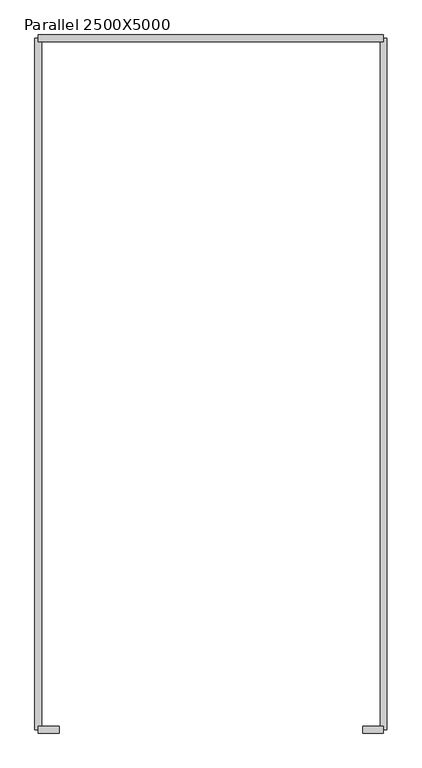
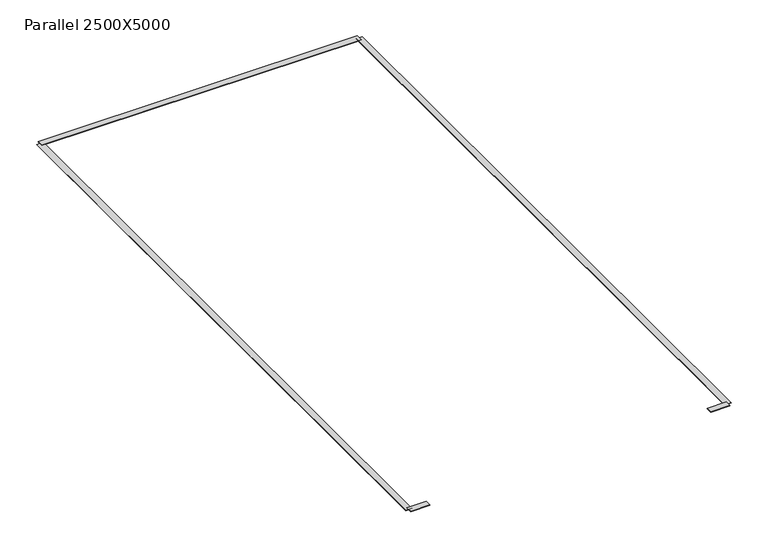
"""IFC4 building model written with IfcOpenShell, lengths in millimetres: proxy geometry, Car_Park_Space-Perpendicular : Parallel 2500X5000."""

from ifc_helpers import new_model, si_unit, origin, origin_with_axes, place, context, project, spatial, polyline, outline, extrude, source, transform, mapped, element, save


def parallel_2500x5000_aad23695(model_context):
    return source(origin(), model_context, "Body", "SweptSolid", [
        extrude(outline(polyline([(150.0, -4975.0), (150.0, -5025.0), (0.0, -5025.0), (0.0, -4975.0), (150.0, -4975.0)])), origin_with_axes(), (0.0, 0.0, 1.0), 3.175),
        extrude(outline(polyline([(2500.0, -4975.0), (2500.0, -5025.0), (2350.0, -5025.0), (2350.0, -4975.0), (2500.0, -4975.0)])), origin_with_axes(), (0.0, 0.0, 1.0), 3.175),
        extrude(outline(polyline([(2500.0, 25.0), (2500.0, -25.0), (0.0, -25.0), (0.0, 25.0), (2500.0, 25.0)])), origin_with_axes(), (0.0, 0.0, 1.0), 3.175),
        extrude(outline(polyline([(2475.0, 0.0), (2525.0, 0.0), (2525.0, -5000.0), (2475.0, -5000.0), (2475.0, 0.0)])), origin_with_axes(), (0.0, 0.0, 1.0), 3.175),
        extrude(outline(polyline([(-25.0, 0.0), (25.0, 0.0), (25.0, -5000.0), (-25.0, -5000.0), (-25.0, 0.0)])), origin_with_axes(), (0.0, 0.0, 1.0), 3.175),
    ])


if __name__ == "__main__":
    model = new_model("IFC4")
    model_context = context("Model", 3, world=origin())
    ifc_project = project(units=[si_unit("LENGTHUNIT", "METRE", prefix="MILLI")], contexts=[model_context])
    site = spatial("IfcSite", under=ifc_project)
    building = spatial("IfcBuilding", under=site)
    placement = place(None, origin())
    parallel_2500x5000_shape = parallel_2500x5000_aad23695(model_context)
    element("IfcBuildingElementProxy", 1, Name="Car_Park_Space-Perpendicular : Parallel 2500X5000", ObjectType="Car_Park_Space-Perpendicular : Parallel 2500X5000", at=placement, inside=building, context=model_context, shape_type="MappedRepresentation", body=[
        mapped(parallel_2500x5000_shape, transform((0.0, 0.0, 0.0), x_axis=(1.0, 0.0, 0.0), y_axis=(0.0, 1.0, 0.0), z_axis=(0.0, 0.0, 1.0))),
    ])
    save(model, "model.ifc")
